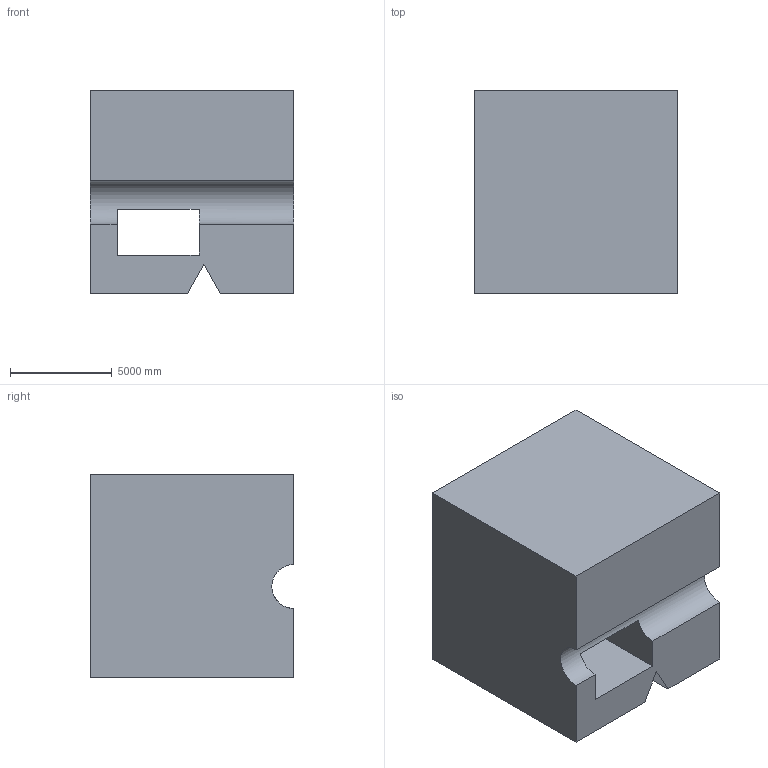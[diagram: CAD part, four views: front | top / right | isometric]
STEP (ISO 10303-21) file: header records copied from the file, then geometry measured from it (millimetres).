
FILE_DESCRIPTION (( 'STEP AP203' ), '1' );
FILE_NAME ('1379.STEP', '2022-08-18T14:08:25', ( 'user' ), ( '' ), 'SwSTEP 2.0', 'SolidWorks 2021', '' );
FILE_SCHEMA (( 'CONFIG_CONTROL_DESIGN' ));
Length unit declared in the file: centimetre
Products named in the file (1): 1379
Bounding box: 10000 x 10000 x 10000 mm (x, y, z)
Volume: 833675361031.3 mm3; surface area: 687054129.9 mm2
Topology: 1 solids, 1 shells, 17 faces, 51 edges, 34 vertices
Faces by surface type: plane 16, cylinder 1
Entity records: 650 total; most frequent: CARTESIAN_POINT 103, ORIENTED_EDGE 102, DIRECTION 91, EDGE_CURVE 51, LINE 47, VECTOR 47, VERTEX_POINT 34, AXIS2_PLACEMENT_3D 22
